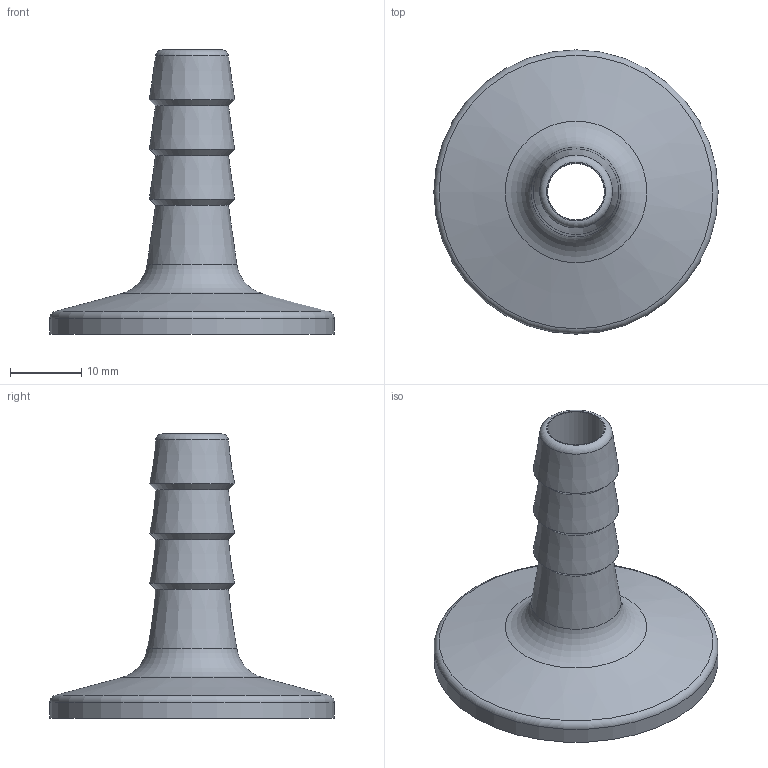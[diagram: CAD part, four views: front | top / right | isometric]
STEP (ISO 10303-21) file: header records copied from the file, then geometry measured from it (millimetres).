
FILE_DESCRIPTION( ( 'Unknown' ), '1' );
FILE_NAME( 'X:/Daten ( aktueller Bestand )/Projekte und Zeichnungen/Solid Edge/2 Bauteile KF/Alu/Schlauchwelle Alu/1604.stp', 'Unknown', ( 'Unknown' ), ( 'Unknown' ), 'XStep 1.0', 'Unknown', ' ' );
FILE_SCHEMA( ( 'automotive_design' ) );
Length unit declared in the file: millimetre
Products named in the file (1): 1
Bounding box: 40 x 40 x 40 mm (x, y, z)
Volume: 6814.3 mm3; surface area: 5308.4 mm2
Topology: 1 solids, 1 shells, 19 faces, 37 edges, 22 vertices
Faces by surface type: cone 8, plane 4, cylinder 4, torus 3
Full cylindrical faces by diameter (mm): 8 x1, 19.7 x1, 26.2 x1, 40 x1
Entity records: 556 total; most frequent: DIRECTION 78, CARTESIAN_POINT 58, AXIS2_PLACEMENT_3D 39, EDGE_LOOP 38, ORIENTED_EDGE 38, FACE_OUTER_BOUND 26, STYLED_ITEM 19, PRESENTATION_STYLE_ASSIGNMENT 19
